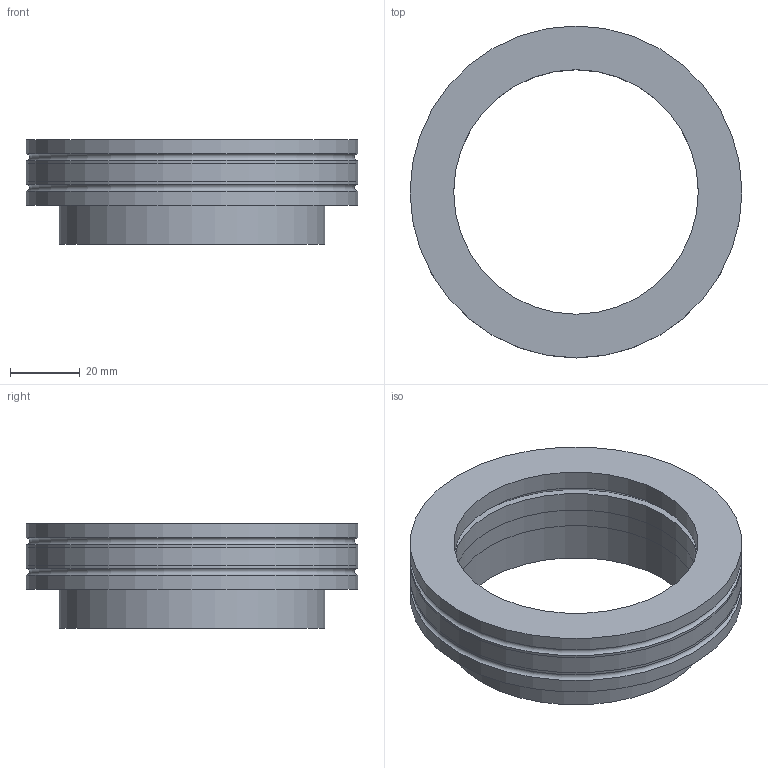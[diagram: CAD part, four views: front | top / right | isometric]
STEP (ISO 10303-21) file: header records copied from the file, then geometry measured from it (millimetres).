
FILE_DESCRIPTION( ( 'Unknown' ), '1' );
FILE_NAME( 'X:/Daten ( aktueller Bestand )/Projekte und Zeichnungen/Solid Edge/10 ISO-K Bauteile/ISO-K-Flansch mit kurzem Rohransatz/6521.stp', 'Unknown', ( 'Unknown' ), ( 'Unknown' ), 'XStep 1.0', 'Unknown', ' ' );
FILE_SCHEMA( ( 'automotive_design' ) );
Length unit declared in the file: millimetre
Products named in the file (3): Assem1; 6521-1; 6511
Bounding box: 95 x 95 x 30 mm (x, y, z)
Volume: 94817.4 mm3; surface area: 51263.6 mm2
Topology: 4 solids, 4 shells, 34 faces, 54 edges, 34 vertices
Faces by surface type: cylinder 16, plane 14, cone 2, torus 2
Full cylindrical faces by diameter (mm): 70 x4, 76 x2, 76.5 x2, 80 x2, 90 x2, 95 x4
Entity records: 436 total; most frequent: DIRECTION 74, CARTESIAN_POINT 54, AXIS2_PLACEMENT_3D 37, EDGE_LOOP 34, ORIENTED_EDGE 34, FACE_OUTER_BOUND 26, ADVANCED_FACE 17, EDGE_CURVE 17
